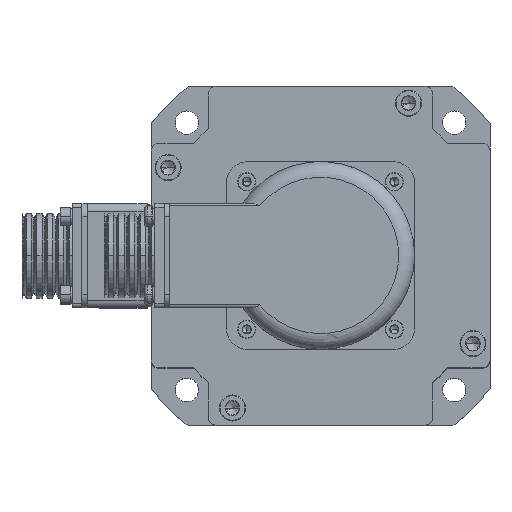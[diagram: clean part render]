
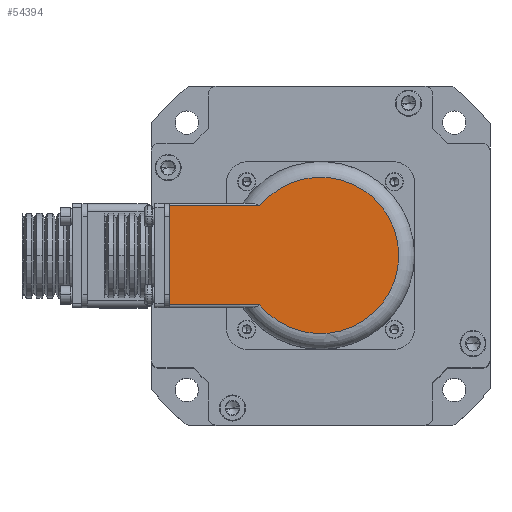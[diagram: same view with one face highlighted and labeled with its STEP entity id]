
A CAD part, top view. The second image highlights one B-rep face of the part: STEP entity #54394.
In plain terms, the highlighted planar face has unit normal (0, 0, 1) as drawn and (1, 0, 0) by its records, which use the part's own axes.
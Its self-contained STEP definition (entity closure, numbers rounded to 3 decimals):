
#52858=DIRECTION('',(0.,1.,0.));
#52859=VECTOR('',#52858,34.784);
#52860=CARTESIAN_POINT('',(43.,23.216,-19.));
#52861=LINE('',#52860,#52859);
#52866=CARTESIAN_POINT('',(43.,0.,0.));
#52867=DIRECTION('',(-1.,0.,0.));
#52868=DIRECTION('',(0.,0.774,-0.633));
#52869=AXIS2_PLACEMENT_3D('',#52866,#52867,#52868);
#52871=CARTESIAN_POINT('',(43.,0.,0.));
#52872=DIRECTION('',(-1.,0.,0.));
#52873=DIRECTION('',(0.,-1.,0.001));
#52874=AXIS2_PLACEMENT_3D('',#52871,#52872,#52873);
#52876=DIRECTION('',(0.,-1.,0.));
#52877=VECTOR('',#52876,34.784);
#52878=CARTESIAN_POINT('',(43.,58.,19.));
#52879=LINE('',#52878,#52877);
#52916=DIRECTION('',(0.,0.,1.));
#52917=VECTOR('',#52916,38.);
#52918=CARTESIAN_POINT('',(43.,58.,-19.));
#52919=LINE('',#52918,#52917);
#53914=CARTESIAN_POINT('',(43.,23.216,-19.));
#53915=CARTESIAN_POINT('',(43.,58.,-19.));
#53916=VERTEX_POINT('',#53914);
#53917=VERTEX_POINT('',#53915);
#53918=CARTESIAN_POINT('',(43.,58.,19.));
#53919=CARTESIAN_POINT('',(43.,23.216,19.));
#53920=VERTEX_POINT('',#53918);
#53921=VERTEX_POINT('',#53919);
#53922=CARTESIAN_POINT('',(43.,-30.,0.033));
#53923=VERTEX_POINT('',#53922);
#54378=CARTESIAN_POINT('',(43.,0.,0.));
#54379=DIRECTION('',(1.,0.,0.));
#54380=DIRECTION('',(0.,-1.,0.));
#54381=AXIS2_PLACEMENT_3D('',#54378,#54379,#54380);
#54382=PLANE('',#54381);
#54384=ORIENTED_EDGE('',*,*,#54383,.F.);
#54386=ORIENTED_EDGE('',*,*,#54385,.F.);
#54387=ORIENTED_EDGE('',*,*,#54361,.F.);
#54389=ORIENTED_EDGE('',*,*,#54388,.T.);
#54391=ORIENTED_EDGE('',*,*,#54390,.T.);
#54392=EDGE_LOOP('',(#54384,#54386,#54387,#54389,#54391));
#54393=FACE_OUTER_BOUND('',#54392,.F.);
#54394=ADVANCED_FACE('',(#54393),#54382,.T.);
#52870=CIRCLE('',#52869,30.);
#52875=CIRCLE('',#52874,30.);
#54361=EDGE_CURVE('',#53916,#53917,#52861,.T.);
#54383=EDGE_CURVE('',#53920,#53921,#52879,.T.);
#54385=EDGE_CURVE('',#53917,#53920,#52919,.T.);
#54388=EDGE_CURVE('',#53916,#53923,#52870,.T.);
#54390=EDGE_CURVE('',#53923,#53921,#52875,.T.);
